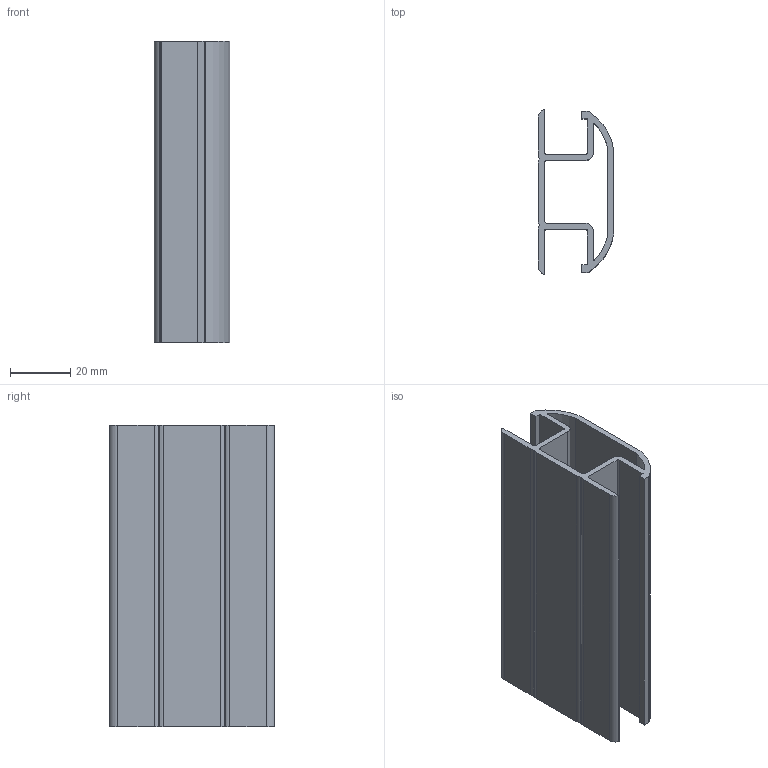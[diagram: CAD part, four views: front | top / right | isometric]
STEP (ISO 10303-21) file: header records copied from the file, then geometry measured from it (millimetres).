
FILE_DESCRIPTION (( 'STEP AP203' ), '1' );
FILE_NAME ('013.025.007.STEP', '2020-07-22T09:05:33', ( '' ), ( '' ), 'SwSTEP 2.0', 'SolidWorks 2018', '' );
FILE_SCHEMA (( 'CONFIG_CONTROL_DESIGN' ));
Length unit declared in the file: millimetre
Products named in the file (1): 013.025.007
Bounding box: 25 x 54.79 x 100 mm (x, y, z)
Volume: 33291.3 mm3; surface area: 34020.5 mm2
Topology: 1 solids, 1 shells, 54 faces, 156 edges, 104 vertices
Faces by surface type: cylinder 28, plane 24, bspline 2
Entity records: 1889 total; most frequent: CARTESIAN_POINT 341, DIRECTION 314, ORIENTED_EDGE 312, EDGE_CURVE 156, AXIS2_PLACEMENT_3D 109, VERTEX_POINT 104, VECTOR 96, LINE 96
